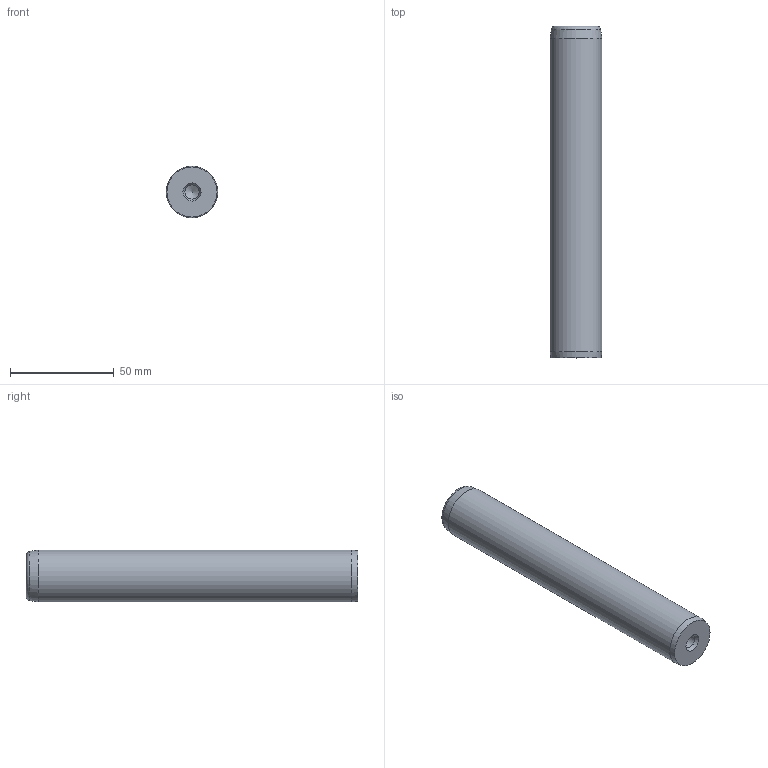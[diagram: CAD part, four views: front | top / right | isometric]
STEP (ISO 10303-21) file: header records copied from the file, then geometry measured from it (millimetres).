
FILE_DESCRIPTION( ( 'STEP AP203' ), '1' );
FILE_NAME( 'D:/Cuma/D14/D14_25160.step', '2003-01-18T23:28:36', ( ' ' ), ( ' ' ), 'XStep 1.0', ' ', ' ' );
FILE_SCHEMA( ( 'CONFIG_CONTROL_DESIGN' ) );
Length unit declared in the file: metre
Products named in the file (1): 1
Bounding box: 25 x 160 x 25 mm (x, y, z)
Volume: 76287.2 mm3; surface area: 14491.6 mm2
Topology: 1 solids, 1 shells, 14 faces, 29 edges, 17 vertices
Faces by surface type: cone 6, cylinder 5, plane 2, torus 1
Full cylindrical faces by diameter (mm): 6.75 x4, 25 x1
Entity records: 327 total; most frequent: DIRECTION 56, CARTESIAN_POINT 43, AXIS2_PLACEMENT_3D 28, EDGE_LOOP 26, ORIENTED_EDGE 26, FACE_OUTER_BOUND 20, VERTEX_POINT 15, ADVANCED_FACE 14
